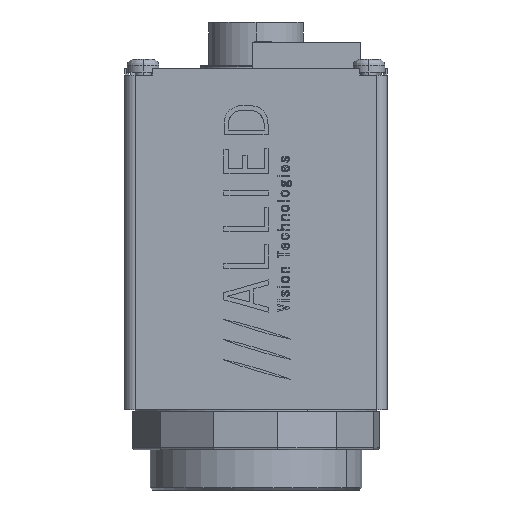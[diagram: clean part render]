
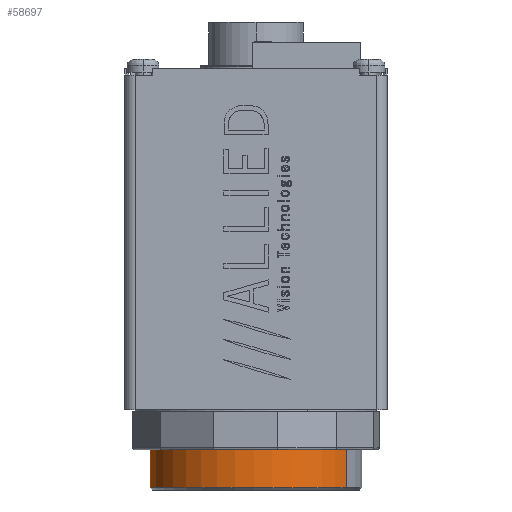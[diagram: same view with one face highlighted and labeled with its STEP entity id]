
A CAD part, left-side view. The second image highlights one B-rep face of the part: STEP entity #58697.
In plain terms, the highlighted cylindrical face has radius 13.335 mm (diameter 26.67 mm), a partial arc.
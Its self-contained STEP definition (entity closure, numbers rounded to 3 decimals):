
#426 = EDGE_CURVE ( 'NONE', #41636, #60994, #142707, .T. ) ;
#1947 = ORIENTED_EDGE ( 'NONE', *, *, #6649, .T. ) ;
#6649 = EDGE_CURVE ( 'NONE', #41636, #67963, #9014, .T. ) ;
#9014 = CIRCLE ( 'NONE', #108206, 13.335 ) ;
#10808 = CARTESIAN_POINT ( 'NONE',  ( 0., 0., 13.386 ) ) ;
#19147 = DIRECTION ( 'NONE',  ( 1., 0., 0. ) ) ;
#19174 = DIRECTION ( 'NONE',  ( 0., 0., 1. ) ) ;
#19372 = CARTESIAN_POINT ( 'NONE',  ( 0., 0., 7.214 ) ) ;
#25068 = DIRECTION ( 'NONE',  ( 1., 0., 0. ) ) ;
#27835 = CARTESIAN_POINT ( 'NONE',  ( 13.335, 0., 13.386 ) ) ;
#36611 = CARTESIAN_POINT ( 'NONE',  ( -13.335, 0., 7.214 ) ) ;
#36954 = VECTOR ( 'NONE', #160409, 1000. ) ;
#40181 = CARTESIAN_POINT ( 'NONE',  ( -13.335, 0., 7.214 ) ) ;
#40772 = DIRECTION ( 'NONE',  ( 0., 0., 1. ) ) ;
#41636 = VERTEX_POINT ( 'NONE', #95685 ) ;
#42031 = CIRCLE ( 'NONE', #155964, 13.335 ) ;
#44352 = LINE ( 'NONE', #40181, #113465 ) ;
#50885 = CARTESIAN_POINT ( 'NONE',  ( -13.335, 0., 13.386 ) ) ;
#53902 = ORIENTED_EDGE ( 'NONE', *, *, #168148, .T. ) ;
#58697 = ADVANCED_FACE ( 'NONE', ( #161194 ), #144297, .T. ) ;
#60994 = VERTEX_POINT ( 'NONE', #27835 ) ;
#67963 = VERTEX_POINT ( 'NONE', #36611 ) ;
#68776 = ORIENTED_EDGE ( 'NONE', *, *, #133139, .T. ) ;
#94475 = DIRECTION ( 'NONE',  ( 1., 0., 0. ) ) ;
#95630 = DIRECTION ( 'NONE',  ( 0., 0., 1. ) ) ;
#95685 = CARTESIAN_POINT ( 'NONE',  ( 13.335, 0., 7.214 ) ) ;
#96081 = CARTESIAN_POINT ( 'NONE',  ( 0., 0., 7.214 ) ) ;
#107931 = DIRECTION ( 'NONE',  ( 0., 0., -1. ) ) ;
#108206 = AXIS2_PLACEMENT_3D ( 'NONE', #19372, #19174, #19147 ) ;
#113465 = VECTOR ( 'NONE', #40772, 1000. ) ;
#120651 = ORIENTED_EDGE ( 'NONE', *, *, #426, .F. ) ;
#130169 = AXIS2_PLACEMENT_3D ( 'NONE', #96081, #95630, #94475 ) ;
#133139 = EDGE_CURVE ( 'NONE', #166363, #60994, #42031, .T. ) ;
#141469 = EDGE_LOOP ( 'NONE', ( #1947, #53902, #68776, #120651 ) ) ;
#142707 = LINE ( 'NONE', #160639, #36954 ) ;
#144297 = CYLINDRICAL_SURFACE ( 'NONE', #130169, 13.335 ) ;
#155964 = AXIS2_PLACEMENT_3D ( 'NONE', #10808, #107931, #25068 ) ;
#160409 = DIRECTION ( 'NONE',  ( 0., 0., 1. ) ) ;
#160639 = CARTESIAN_POINT ( 'NONE',  ( 13.335, 0., 7.214 ) ) ;
#161194 = FACE_OUTER_BOUND ( 'NONE', #141469, .T. ) ;
#166363 = VERTEX_POINT ( 'NONE', #50885 ) ;
#168148 = EDGE_CURVE ( 'NONE', #67963, #166363, #44352, .T. ) ;
